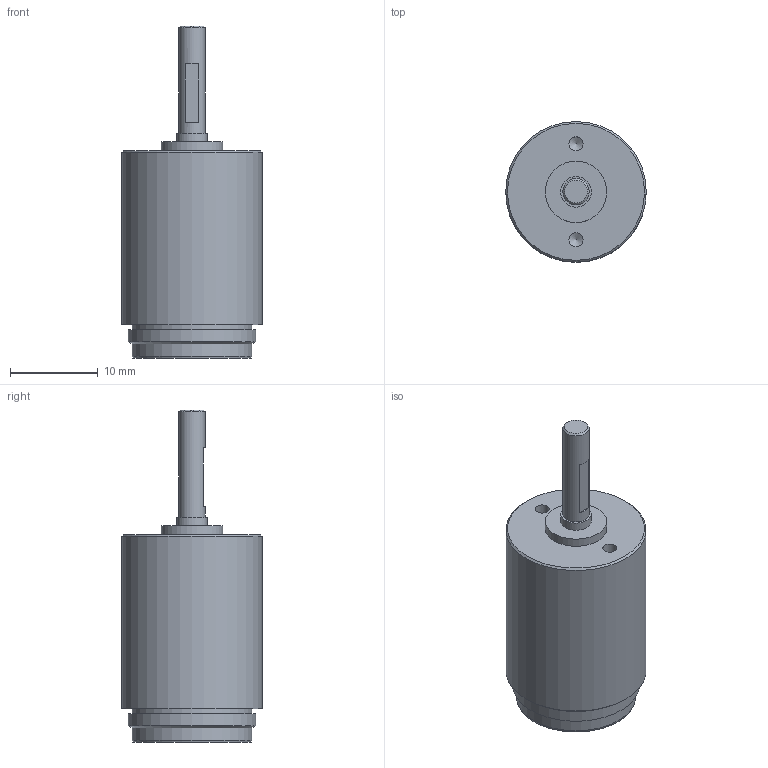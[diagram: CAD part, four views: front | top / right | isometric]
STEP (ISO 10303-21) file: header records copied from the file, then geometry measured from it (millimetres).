
FILE_DESCRIPTION(/* description */ (''),/* implementation_level */ '2;1');
FILE_NAME(/* name */ '16-7_4.stp',/* time_stamp */ '2016-09-09T15:00:43+02:00',/* author */ ('DR. FRITZ FAULHABER GmbH & Co. KG'),/* organization */ ('DR. FRITZ FAULHABER GmbH & Co. KG'),/* preprocessor_version */ 'ST-DEVELOPER v16',/* originating_system */ 'SIEMENS PLM Software NX 10.0',/* authorisation */ '');
FILE_SCHEMA (('AUTOMOTIVE_DESIGN { 1 0 10303 214 3 1 1 1 }'));
Length unit declared in the file: millimetre
Products named in the file (1): H00000980_A
Bounding box: 16 x 16 x 37.8 mm (x, y, z)
Volume: 4595.9 mm3; surface area: 1832.7 mm2
Topology: 1 solids, 1 shells, 27 faces, 63 edges, 51 vertices
Faces by surface type: plane 11, cylinder 10, cone 6
Full cylindrical faces by diameter (mm): 1.6 x2, 3 x1, 3.5 x1, 6 x1, 7 x1, 13.6 x2, 14.5 x1, 16 x1
Entity records: 705 total; most frequent: DIRECTION 129, CARTESIAN_POINT 99, AXIS2_PLACEMENT_3D 60, ORIENTED_EDGE 58, EDGE_LOOP 50, FACE_BOUND 47, CIRCLE 32, VERTEX_POINT 29
